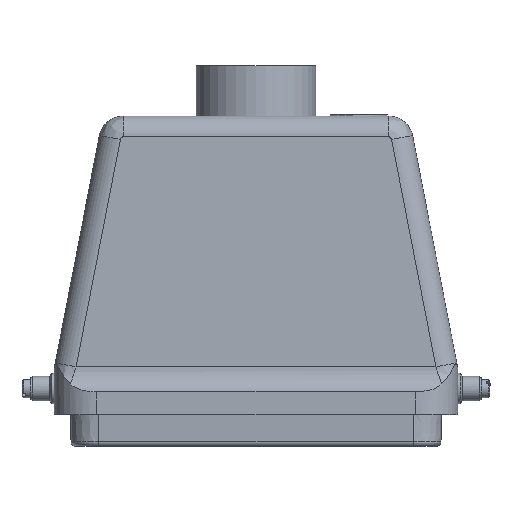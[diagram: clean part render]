
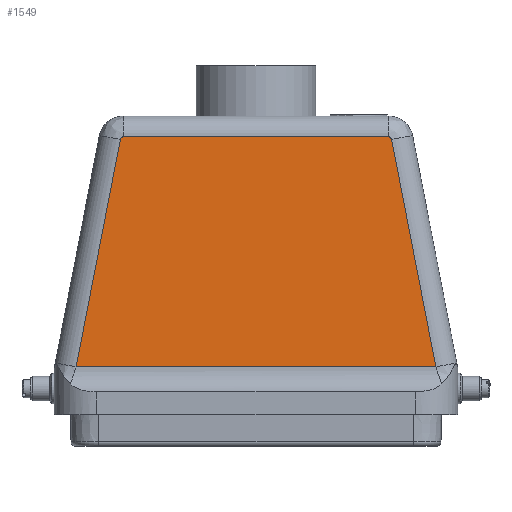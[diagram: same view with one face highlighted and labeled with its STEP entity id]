
A CAD part, front view. The second image highlights one B-rep face of the part: STEP entity #1549.
In plain terms, the highlighted planar face has unit normal (0, -1, 0.026).
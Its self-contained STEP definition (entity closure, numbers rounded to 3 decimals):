
#1096=FACE_OUTER_BOUND('',#2281,.T.);
#1398=ELLIPSE('',#10778,1.,1.);
#1399=ELLIPSE('',#10779,1.,1.);
#1549=ADVANCED_FACE('',(#1096),#1917,.F.);
#1917=PLANE('',#10780);
#2281=EDGE_LOOP('',(#2920,#2921,#2922,#2923,#2924,#2925));
#2920=ORIENTED_EDGE('',*,*,#5290,.F.);
#2921=ORIENTED_EDGE('',*,*,#5291,.T.);
#2922=ORIENTED_EDGE('',*,*,#5292,.T.);
#2923=ORIENTED_EDGE('',*,*,#5293,.T.);
#2924=ORIENTED_EDGE('',*,*,#5294,.T.);
#2925=ORIENTED_EDGE('',*,*,#5295,.T.);
#4665=VERTEX_POINT('',#15689);
#4666=VERTEX_POINT('',#15690);
#4667=VERTEX_POINT('',#15692);
#4668=VERTEX_POINT('',#15694);
#4669=VERTEX_POINT('',#15696);
#4670=VERTEX_POINT('',#15698);
#5290=EDGE_CURVE('',#4665,#4666,#9597,.T.);
#5291=EDGE_CURVE('',#4665,#4667,#9598,.T.);
#5292=EDGE_CURVE('',#4667,#4668,#1398,.T.);
#5293=EDGE_CURVE('',#4668,#4669,#9599,.T.);
#5294=EDGE_CURVE('',#4669,#4670,#1399,.T.);
#5295=EDGE_CURVE('',#4670,#4666,#9600,.T.);
#9597=LINE('',#15688,#10314);
#9598=LINE('',#15691,#10315);
#9599=LINE('',#15695,#10316);
#9600=LINE('',#15699,#10317);
#10314=VECTOR('',#11799,1.);
#10315=VECTOR('',#11800,1.);
#10316=VECTOR('',#11803,1.);
#10317=VECTOR('',#11806,1.);
#10778=AXIS2_PLACEMENT_3D('',#15693,#11801,#11802);
#10779=AXIS2_PLACEMENT_3D('',#15697,#11804,#11805);
#10780=AXIS2_PLACEMENT_3D('',#15700,#11807,#11808);
#11799=DIRECTION('',(-1.,0.,0.));
#11800=DIRECTION('',(-0.191,0.026,0.981));
#11801=DIRECTION('',(0.,-1.,0.026));
#11802=DIRECTION('',(0.,0.026,1.));
#11803=DIRECTION('',(-1.,0.,0.));
#11804=DIRECTION('',(0.,-1.,0.026));
#11805=DIRECTION('',(0.,0.026,1.));
#11806=DIRECTION('',(-0.191,-0.026,-0.981));
#11807=DIRECTION('',(0.,1.,-0.026));
#11808=DIRECTION('',(0.,0.026,1.));
#15688=CARTESIAN_POINT('',(66.1,-40.,6.72));
#15689=CARTESIAN_POINT('',(58.784,-40.,6.72));
#15690=CARTESIAN_POINT('',(-58.784,-40.,6.72));
#15691=CARTESIAN_POINT('',(43.695,-37.967,84.348));
#15692=CARTESIAN_POINT('',(44.331,-38.053,81.074));
#15693=CARTESIAN_POINT('',(43.349,-38.058,80.883));
#15694=CARTESIAN_POINT('',(43.349,-38.032,81.883));
#15695=CARTESIAN_POINT('',(66.1,-38.032,81.883));
#15696=CARTESIAN_POINT('',(-43.349,-38.032,81.883));
#15697=CARTESIAN_POINT('',(-43.349,-38.058,80.883));
#15698=CARTESIAN_POINT('',(-44.331,-38.053,81.074));
#15699=CARTESIAN_POINT('',(-38.885,-37.319,109.093));
#15700=CARTESIAN_POINT('',(66.1,-37.853,88.7));
